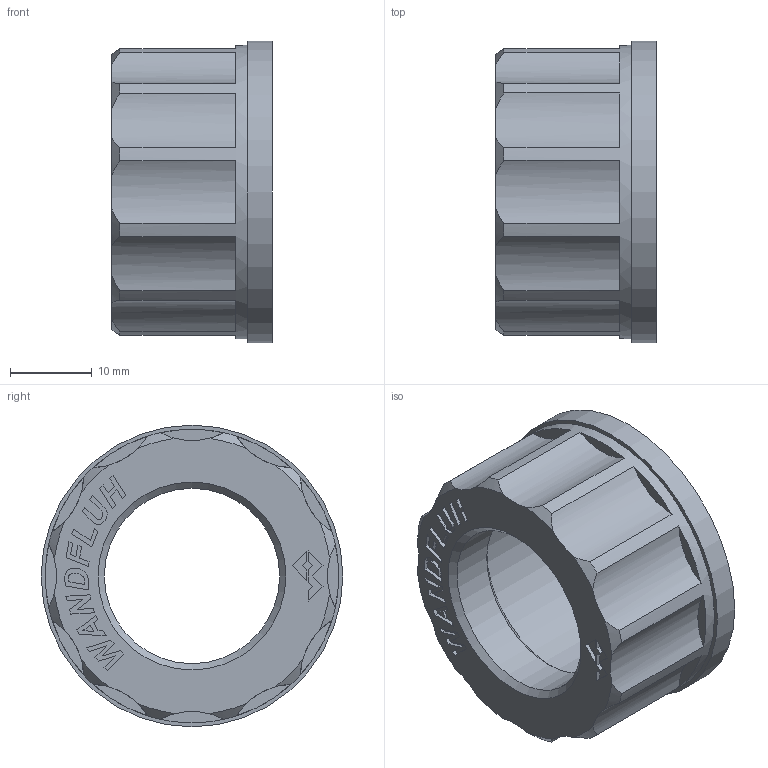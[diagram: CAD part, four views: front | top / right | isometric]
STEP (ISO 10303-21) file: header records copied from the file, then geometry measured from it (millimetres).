
FILE_DESCRIPTION (( 'STEP AP214' ), '1' );
FILE_NAME ('knurled_nut.STEP', '2018-03-09T08:58:51', ( '' ), ( '' ), 'SwSTEP 2.0', 'SolidWorks 2016', '' );
FILE_SCHEMA (( 'AUTOMOTIVE_DESIGN' ));
Length unit declared in the file: millimetre
Products named in the file (1): knurled_nut
Bounding box: 19.7 x 37 x 37 mm (x, y, z)
Volume: 9945.9 mm3; surface area: 5145.3 mm2
Topology: 1 solids, 1 shells, 168 faces, 452 edges, 301 vertices
Faces by surface type: plane 121, cylinder 16, bspline 16, cone 15
Full cylindrical faces by diameter (mm): 21.5 x1, 24.5 x1, 36 x1, 37 x1
Entity records: 6023 total; most frequent: CARTESIAN_POINT 1879, ORIENTED_EDGE 886, DIRECTION 764, EDGE_CURVE 443, LINE 316, VECTOR 316, VERTEX_POINT 299, AXIS2_PLACEMENT_3D 224
